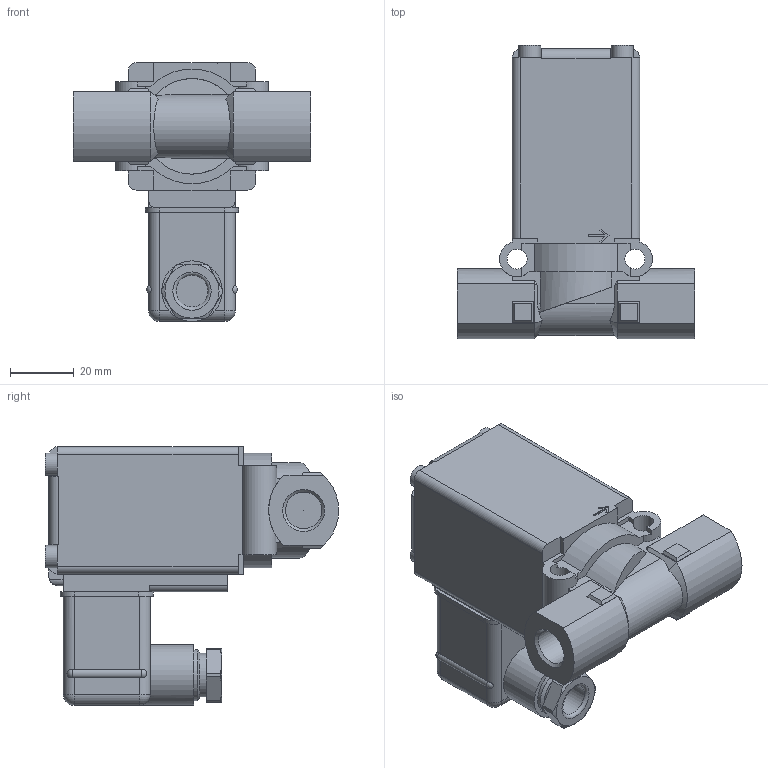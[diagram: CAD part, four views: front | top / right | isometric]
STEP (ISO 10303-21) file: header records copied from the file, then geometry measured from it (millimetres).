
FILE_DESCRIPTION(/* description */ ('STEP AP214'),/* implementation_level */ '2;1');
FILE_NAME(/* name */ '0256-055589-2_2-way_Solenoid_Valve',/* time_stamp */ '2024-07-31T17:52:26+02:00',/* author */ ('License CC BY-ND 4.0'),/* organization */ ('CADENAS'),/* preprocessor_version */ 'ST-DEVELOPER v19.3',/* originating_system */ 'PARTsolutions',/* authorisation */ ' ');
FILE_SCHEMA (('AUTOMOTIVE_DESIGN {1 0 10303 214 3 1 1}'));
Length unit declared in the file: millimetre
Products named in the file (1): 0256-055589-2/2-way Solenoid Valve
Bounding box: 74.5 x 92.1 x 81.2 mm (x, y, z)
Volume: 174570.2 mm3; surface area: 27841.3 mm2
Topology: 1 solids, 1 shells, 251 faces, 654 edges, 415 vertices
Faces by surface type: plane 162, cylinder 64, cone 16, sphere 8, torus 1
Full cylindrical faces by diameter (mm): 0.2 x1, 6.3 x2, 7 x5, 10 x1, 11.445 x2, 13.7 x1, 16 x1, 19 x1
Entity records: 9391 total; most frequent: CARTESIAN_POINT 1482, DIRECTION 1264, ORIENTED_EDGE 1262, EDGE_CURVE 631, AXIS2_PLACEMENT_3D 427, VERTEX_POINT 415, LINE 410, VECTOR 410
